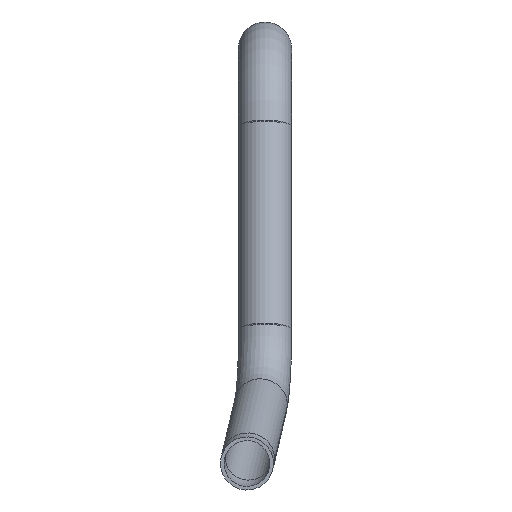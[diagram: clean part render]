
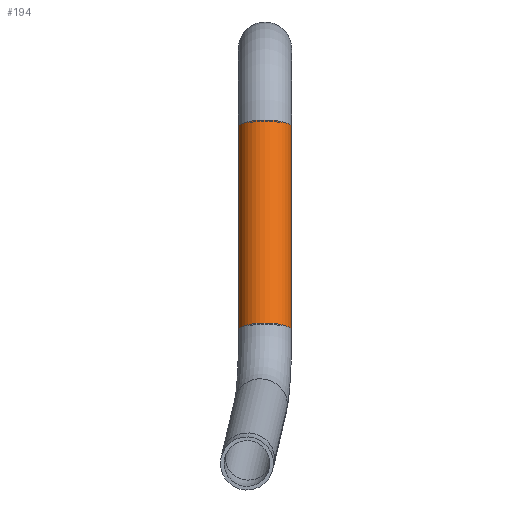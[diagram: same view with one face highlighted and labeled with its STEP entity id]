
A CAD part, left-side view. The second image highlights one B-rep face of the part: STEP entity #194.
In plain terms, the highlighted cylindrical face has radius 11 mm (diameter 22 mm), a partial arc.
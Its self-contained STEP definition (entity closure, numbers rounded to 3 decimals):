
#140=AXIS2_PLACEMENT_3D('Circle Axis2P3D',#138,#139,$) ;
#167=AXIS2_PLACEMENT_3D('Cylinder Axis2P3D',#164,#165,#166) ;
#171=AXIS2_PLACEMENT_3D('Circle Axis2P3D',#169,#170,$) ;
#138=CARTESIAN_POINT('Axis2P3D Location',(-12963.611,-1078.734,381.408)) ;
#142=CARTESIAN_POINT('Vertex',(-12963.611,-1089.734,381.408)) ;
#144=CARTESIAN_POINT('Vertex',(-12963.611,-1067.734,381.408)) ;
#164=CARTESIAN_POINT('Axis2P3D Location',(-12951.593,-1078.734,423.47)) ;
#169=CARTESIAN_POINT('Axis2P3D Location',(-12939.575,-1078.734,465.532)) ;
#173=CARTESIAN_POINT('Vertex',(-12939.575,-1089.734,465.532)) ;
#175=CARTESIAN_POINT('Vertex',(-12939.575,-1067.734,465.532)) ;
#178=CARTESIAN_POINT('Line Origine',(-12951.593,-1067.734,423.47)) ;
#183=CARTESIAN_POINT('Line Origine',(-12951.593,-1089.734,423.47)) ;
#139=DIRECTION('Axis2P3D Direction',(-0.275,0.,-0.962)) ;
#165=DIRECTION('Axis2P3D Direction',(-0.275,0.,-0.962)) ;
#166=DIRECTION('Axis2P3D XDirection',(0.,-1.,0.)) ;
#170=DIRECTION('Axis2P3D Direction',(-0.275,0.,-0.962)) ;
#179=DIRECTION('Vector Direction',(-0.275,0.,-0.962)) ;
#184=DIRECTION('Vector Direction',(-0.275,0.,-0.962)) ;
#180=VECTOR('Line Direction',#179,1.) ;
#185=VECTOR('Line Direction',#184,1.) ;
#189=ORIENTED_EDGE('',*,*,#177,.T.) ;
#190=ORIENTED_EDGE('',*,*,#182,.F.) ;
#191=ORIENTED_EDGE('',*,*,#146,.F.) ;
#192=ORIENTED_EDGE('',*,*,#187,.T.) ;
#194=ADVANCED_FACE('( + ) PartBody',(#193),#168,.T.) ;
#141=CIRCLE('generated circle',#140,11.) ;
#172=CIRCLE('generated circle',#171,11.) ;
#168=CYLINDRICAL_SURFACE('generated cylinder',#167,11.) ;
#146=EDGE_CURVE('',#143,#145,#141,.T.) ;
#177=EDGE_CURVE('',#174,#176,#172,.T.) ;
#182=EDGE_CURVE('',#145,#176,#181,.F.) ;
#187=EDGE_CURVE('',#143,#174,#186,.F.) ;
#188=EDGE_LOOP('',(#189,#190,#191,#192)) ;
#193=FACE_OUTER_BOUND('',#188,.T.) ;
#181=LINE('Line',#178,#180) ;
#186=LINE('Line',#183,#185) ;
#143=VERTEX_POINT('',#142) ;
#145=VERTEX_POINT('',#144) ;
#174=VERTEX_POINT('',#173) ;
#176=VERTEX_POINT('',#175) ;
